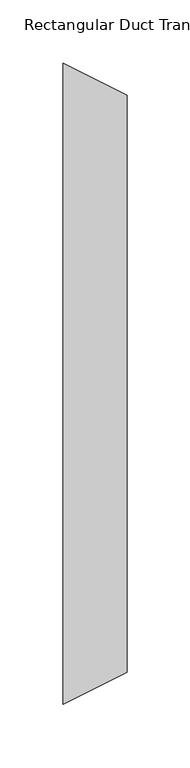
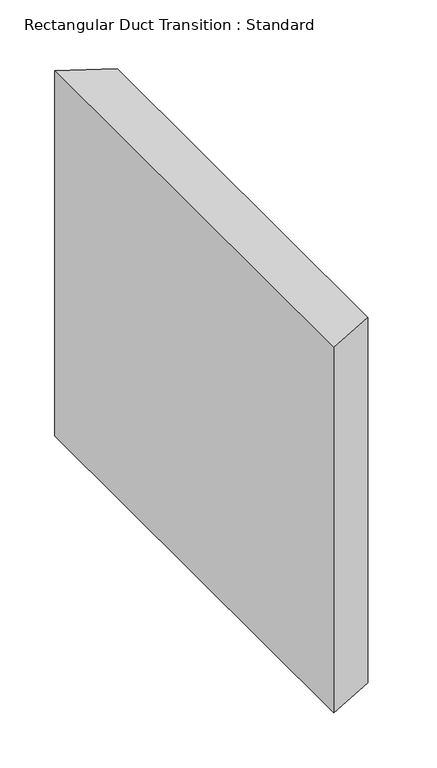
"""IFC4 building model written with IfcOpenShell, lengths in millimetres: duct fitting geometry, Rectangular Duct Transition : Standard."""

from ifc_helpers import new_model, si_unit, frame, origin, place, context, project, spatial, polyline, outline, extrude, source, transform, mapped, element, save


def rectangular_duct_transition_standard_94b557fa(model_context):
    return source(origin(), model_context, "Body", "SweptSolid", [
        extrude(outline(polyline([(0.0, -254.0), (0.0, 254.0), (50.8, 228.6), (50.8, -228.6), (0.0, -254.0)])), frame((0.0, 0.0, -203.2), z_axis=(0.0, 0.0, 1.0), x_axis=(1.0, 0.0, 0.0)), (0.0, 0.0, 1.0), 406.4),
        extrude(outline(polyline([(0.0, -254.0), (0.0, 254.0), (50.8, 228.6), (50.8, -228.6), (0.0, -254.0)])), frame((0.0, 0.0, -203.2), z_axis=(0.0, 0.0, 1.0), x_axis=(1.0, 0.0, 0.0)), (0.0, 0.0, 1.0), 406.4),
        extrude(outline(polyline([(0.0, -254.0), (0.0, 254.0), (50.8, 228.6), (50.8, -228.6), (0.0, -254.0)])), frame((0.0, 0.0, -203.2), z_axis=(0.0, 0.0, 1.0), x_axis=(1.0, 0.0, 0.0)), (0.0, 0.0, 1.0), 406.4),
    ])


if __name__ == "__main__":
    model = new_model("IFC4")
    model_context = context("Model", 3, world=origin())
    ifc_project = project(units=[si_unit("LENGTHUNIT", "METRE", prefix="MILLI")], contexts=[model_context])
    site = spatial("IfcSite", under=ifc_project)
    building = spatial("IfcBuilding", under=site)
    placement = place(None, origin())
    rectangular_duct_transition_standard_shape = rectangular_duct_transition_standard_94b557fa(model_context)
    element("IfcDuctFitting", 1, ObjectType="Rectangular Duct Transition : Standard", at=placement, inside=building, context=model_context, shape_type="MappedRepresentation", body=[
        mapped(rectangular_duct_transition_standard_shape, transform((0.0, 0.0, 0.0), x_axis=(1.0, 0.0, 0.0), y_axis=(0.0, 1.0, 0.0), z_axis=(0.0, 0.0, 1.0))),
    ])
    save(model, "model.ifc")
